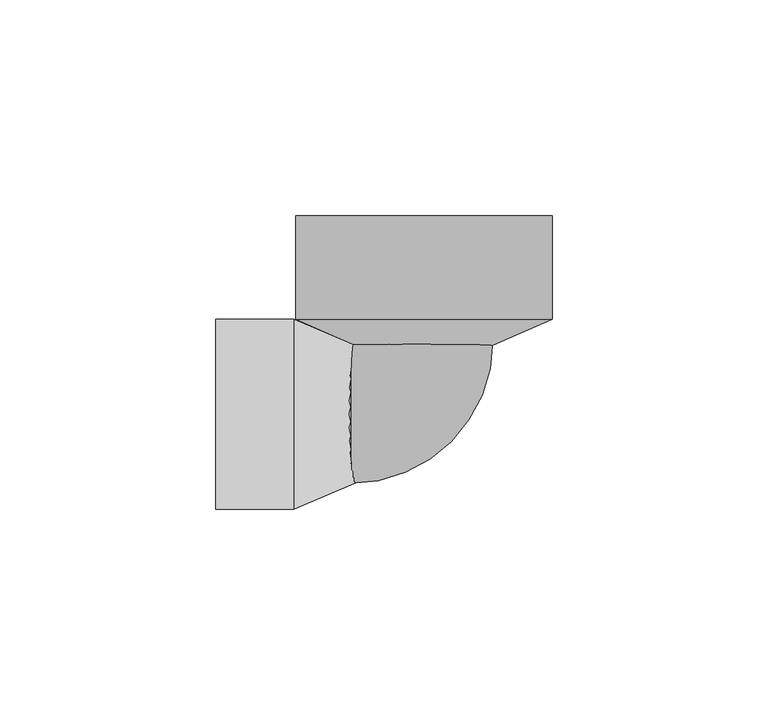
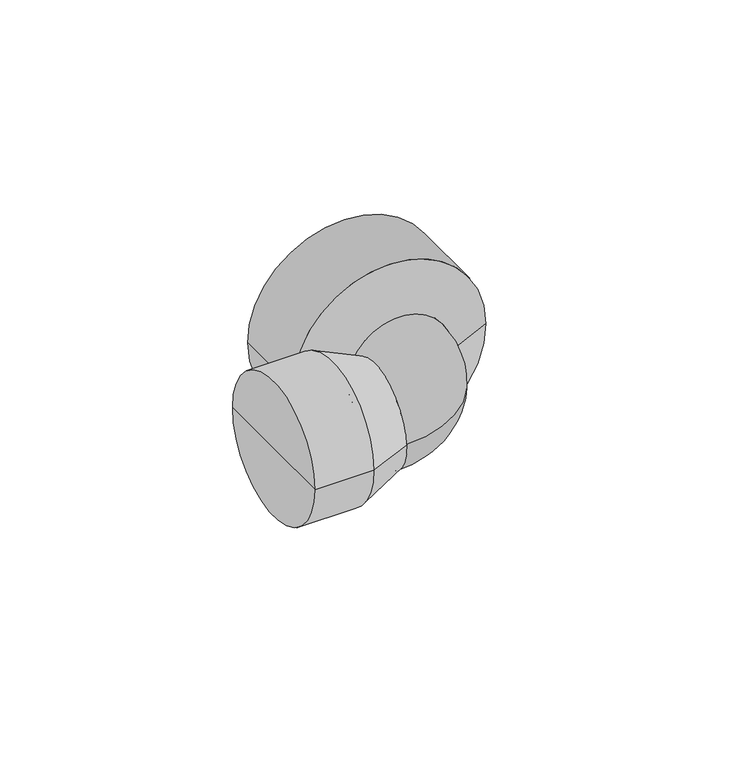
"""IFC4 building model written with IfcOpenShell, lengths in millimetres: pipe fitting geometry, KAN-therm PP kolano gw 1 : KAN-therm PP kolano gw 1."""

from ifc_helpers import new_model, si_unit, point, frame, origin, place, context, project, spatial, polyline, circle_curve, ellipse_curve, trimmed, source, transform, mapped, element, save
from ifc_brep_helpers import plane_surface, cylinder_surface, revolved_surface, advanced_brep


def pipe_fitting_afdd248d(model_context):
    return source(origin(), model_context, "Body", "AdvancedBrep", [
        advanced_brep(
        [(-16.0, 26.0, 0.0), (16.0, 26.0, 0.0), (-16.0, 17.0, 0.0), (16.0, 17.0, 0.0), (-30.15, 16.0, 0.0), (-30.15, -16.0, 0.0), (-17.0, -16.0, 0.0), (-17.0, 16.0, 0.0)],
        [
            (0, 1, circle_curve(frame((0.0, 26.0, 0.0), z_axis=(0.0, 1.0, 0.0), x_axis=(1.0, 0.0, 0.0)), 16.0)),
            (1, 0, circle_curve(frame((0.0, 26.0, 0.0), z_axis=(0.0, 1.0, 0.0), x_axis=(1.0, 0.0, 0.0)), 16.0)),
            (0, 2),
            (2, 3, circle_curve(frame((0.0, 17.0, 0.0), z_axis=(0.0, 1.0, 0.0), x_axis=(1.0, 0.0, 0.0)), 16.0)),
            (3, 1),
            (3, 2, circle_curve(frame((0.0, 17.0, 0.0), z_axis=(0.0, 1.0, 0.0), x_axis=(1.0, 0.0, 0.0)), 16.0)),
            (4, 5, circle_curve(frame((-30.15, 0.0, 0.0), z_axis=(-1.0, 0.0, 0.0), x_axis=(0.0, -1.0, 0.0)), 16.0)),
            (5, 4, circle_curve(frame((-30.15, 0.0, 0.0), z_axis=(-1.0, 0.0, 0.0), x_axis=(0.0, -1.0, 0.0)), 16.0)),
            (6, 7, circle_curve(frame((-17.0, 0.0, 0.0), z_axis=(-1.0, 0.0, 0.0), x_axis=(0.0, -1.0, 0.0)), 16.0)),
            (7, 4),
            (5, 6),
            (7, 6, circle_curve(frame((-17.0, 0.0, 0.0), z_axis=(-1.0, 0.0, 0.0), x_axis=(0.0, -1.0, 0.0)), 16.0)),
            (6, 3, circle_curve(frame((-17.0, 17.0, 0.0), z_axis=(0.0, 0.0, 1.0), x_axis=(1.0, 0.0, 0.0)), 33.0)),
            (2, 7, circle_curve(frame((-17.0, 17.0, 0.0), z_axis=(0.0, 0.0, -1.0), x_axis=(1.0, 0.0, 0.0)), 1.0)),
        ],
        [
            plane_surface(frame((0.0, 26.0, 0.0), z_axis=(0.0, 1.0, 0.0), x_axis=(0.0, 0.0, 1.0))),
            cylinder_surface(frame((0.0, 26.0, 0.0), z_axis=(0.0, 1.0, 0.0), x_axis=(1.0, 0.0, 0.0)), 16.0),
            plane_surface(frame((-30.15, 0.0, 0.0), z_axis=(-1.0, 0.0, 0.0), x_axis=(0.0, 0.0, 1.0))),
            cylinder_surface(frame((-17.0, 0.0, 0.0), z_axis=(1.0, 0.0, 0.0), x_axis=(0.0, -1.0, 0.0)), 16.0),
            revolved_surface(trimmed(ellipse_curve(frame((0.0, 17.0, 0.0), z_axis=(0.0, 1.0, 0.0), x_axis=(1.0, 0.0, 0.0)), 16.0, 16.0), [point((-16.0, 17.0, 0.0))], [point((16.0, 17.0, 0.0))], True, "CARTESIAN"), (-17.0, 17.0, 0.0), (0.0, 0.0, -1.0)),
            revolved_surface(trimmed(ellipse_curve(frame((0.0, 17.0, 0.0), z_axis=(0.0, 1.0, 0.0), x_axis=(1.0, 0.0, 0.0)), 16.0, 16.0), [point((16.0, 17.0, 0.0))], [point((-16.0, 17.0, 0.0))], True, "CARTESIAN"), (-17.0, 17.0, 0.0), (0.0, 0.0, -1.0)),
        ],
        [
            (0, [[1, 2]]),
            (1, [[-1, 3, 4, 5]]),
            (1, [[-2, -5, 6, -3]]),
            (2, [[7, 8]]),
            (3, [[9, 10, -8, 11]]),
            (3, [[12, -11, -7, -10]]),
            (4, [[13, -4, 14, -9]]),
            (5, [[-14, -6, -13, -12]]),
        ],
    ),
        advanced_brep(
        [(0.0, 46.0, 0.0), (29.75, 46.0, 0.0), (-29.75, 46.0, 0.0), (-16.0, 16.0, 0.0), (16.0, 16.0, 0.0), (0.0, 16.0, 0.0), (29.75, 22.0, 0.0), (-29.75, 22.0, 0.0)],
        [
            (0, 1),
            (1, 2, circle_curve(frame((0.0, 46.0, 0.0), z_axis=(0.0, 1.0, 0.0), x_axis=(1.0, 0.0, 0.0)), 29.75)),
            (2, 0),
            (2, 1, circle_curve(frame((0.0, 46.0, 0.0), z_axis=(0.0, 1.0, 0.0), x_axis=(1.0, 0.0, 0.0)), 29.75)),
            (3, 4, circle_curve(frame((0.0, 16.0, 0.0), z_axis=(0.0, -1.0, 0.0), x_axis=(1.0, 0.0, 0.0)), 16.0)),
            (4, 5),
            (5, 3),
            (4, 3, circle_curve(frame((0.0, 16.0, 0.0), z_axis=(0.0, -1.0, 0.0), x_axis=(1.0, 0.0, 0.0)), 16.0)),
            (1, 6),
            (6, 7, circle_curve(frame((0.0, 22.0, 0.0), z_axis=(0.0, 1.0, 0.0), x_axis=(1.0, 0.0, 0.0)), 29.75)),
            (7, 2),
            (7, 6, circle_curve(frame((0.0, 22.0, 0.0), z_axis=(0.0, 1.0, 0.0), x_axis=(1.0, 0.0, 0.0)), 29.75)),
            (6, 4),
            (3, 7),
        ],
        [
            plane_surface(frame((0.0, 46.0, 0.0), z_axis=(0.0, 1.0, 0.0), x_axis=(1.0, 0.0, 0.0))),
            plane_surface(frame((0.0, 16.0, 0.0), z_axis=(0.0, -1.0, 0.0), x_axis=(1.0, 0.0, 0.0))),
            cylinder_surface(frame((0.0, 2009.0, 0.0), z_axis=(0.0, 1.0, 0.0), x_axis=(1.0, 0.0, 0.0)), 29.75),
            revolved_surface(polyline([(16.0, 16.0, 0.0), (29.75, 22.0, 0.0)]), (0.0, 2009.0, 0.0), (0.0, 1.0, 0.0)),
        ],
        [
            (0, [[1, 2, 3]]),
            (0, [[-3, 4, -1]]),
            (1, [[5, 6, 7]]),
            (1, [[8, -7, -6]]),
            (2, [[-2, 9, 10, 11]]),
            (2, [[-4, -11, 12, -9]]),
            (3, [[-10, 13, -5, 14]]),
            (3, [[-12, -14, -8, -13]]),
        ],
    ),
        advanced_brep(
        [(-30.15, 22.0, 0.0), (-30.15, -22.0, 0.0), (-48.25, -22.0, 0.0), (-48.25, 22.0, 0.0), (-16.0, 0.0, 0.0), (-16.0, -16.0, 0.0), (-16.0, 16.0, 0.0), (-48.25, 0.0, 0.0)],
        [
            (0, 1, circle_curve(frame((-30.15, 0.0, 0.0), z_axis=(-1.0, 0.0, 0.0), x_axis=(0.0, -1.0, 0.0)), 22.0)),
            (1, 2),
            (2, 3, circle_curve(frame((-48.25, 0.0, 0.0), z_axis=(1.0, 0.0, 0.0), x_axis=(0.0, -1.0, 0.0)), 22.0)),
            (3, 0),
            (1, 0, circle_curve(frame((-30.15, 0.0, 0.0), z_axis=(-1.0, 0.0, 0.0), x_axis=(0.0, -1.0, 0.0)), 22.0)),
            (3, 2, circle_curve(frame((-48.25, 0.0, 0.0), z_axis=(1.0, 0.0, 0.0), x_axis=(0.0, -1.0, 0.0)), 22.0)),
            (4, 5),
            (5, 6, circle_curve(frame((-16.0, 0.0, 0.0), z_axis=(1.0, 0.0, 0.0), x_axis=(0.0, -1.0, 0.0)), 16.0)),
            (6, 4),
            (6, 5, circle_curve(frame((-16.0, 0.0, 0.0), z_axis=(1.0, 0.0, 0.0), x_axis=(0.0, -1.0, 0.0)), 16.0)),
            (2, 7),
            (7, 3),
            (5, 1),
            (0, 6),
        ],
        [
            cylinder_surface(frame((2010.25, 0.0, 0.0), z_axis=(1.0, 0.0, 0.0), x_axis=(0.0, -1.0, 0.0)), 22.0),
            plane_surface(frame((-16.0, 0.0, 0.0), z_axis=(1.0, 0.0, 0.0), x_axis=(0.0, -1.0, 0.0))),
            plane_surface(frame((-48.25, 0.0, 0.0), z_axis=(-1.0, 0.0, 0.0), x_axis=(0.0, -1.0, 0.0))),
            revolved_surface(polyline([(-30.15, -22.0, 0.0), (-16.0, -16.0, 0.0)]), (2010.25, 0.0, 0.0), (1.0, 0.0, 0.0)),
        ],
        [
            (0, [[1, 2, 3, 4]]),
            (0, [[5, -4, 6, -2]]),
            (1, [[7, 8, 9]]),
            (1, [[-9, 10, -7]]),
            (2, [[-3, 11, 12]]),
            (2, [[-6, -12, -11]]),
            (3, [[-8, 13, -1, 14]]),
            (3, [[-10, -14, -5, -13]]),
        ],
    ),
    ])


if __name__ == "__main__":
    model = new_model("IFC4")
    model_context = context("Model", 3, world=origin())
    ifc_project = project(units=[si_unit("LENGTHUNIT", "METRE", prefix="MILLI")], contexts=[model_context])
    site = spatial("IfcSite", under=ifc_project)
    building = spatial("IfcBuilding", under=site)
    placement = place(None, origin())
    pipe_fitting_shape = pipe_fitting_afdd248d(model_context)
    element("IfcPipeFitting", 1, ObjectType="KAN-therm PP kolano gw 1 : KAN-therm PP kolano gw 1", at=placement, inside=building, context=model_context, shape_type="MappedRepresentation", body=[
        mapped(pipe_fitting_shape, transform((0.0, 0.0, 0.0), x_axis=(1.0, 0.0, 0.0), y_axis=(0.0, 1.0, 0.0), z_axis=(0.0, 0.0, 1.0))),
    ])
    save(model, "model.ifc")
